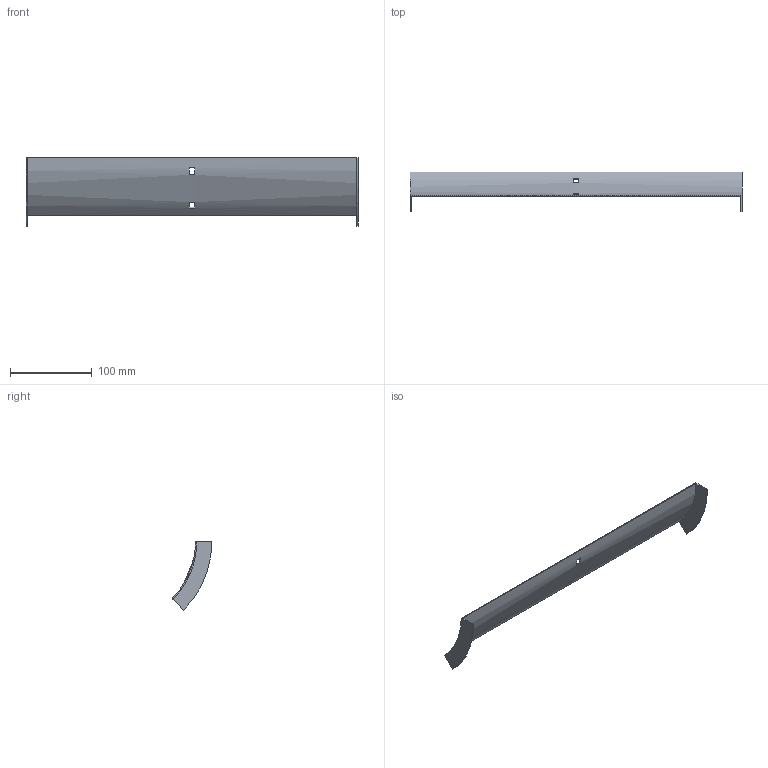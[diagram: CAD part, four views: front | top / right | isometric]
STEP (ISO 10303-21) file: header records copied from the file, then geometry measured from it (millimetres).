
FILE_DESCRIPTION (( 'STEP AP214' ), '1' );
FILE_NAME ('31N1R400.step', '2025-02-21T09:23:14', ( '' ), ( '' ), 'SwSTEP 2.0', 'SolidWorks 2023', '' );
FILE_SCHEMA (( 'AUTOMOTIVE_DESIGN' ));
Length unit declared in the file: millimetre
Products named in the file (1): 31N1R400
Bounding box: 407 x 48.85 x 83.79 mm (x, y, z)
Volume: 52173.1 mm3; surface area: 71267.9 mm2
Topology: 1 solids, 1 shells, 18 faces, 48 edges, 32 vertices
Faces by surface type: plane 14, cylinder 4
Entity records: 599 total; most frequent: DIRECTION 102, CARTESIAN_POINT 99, ORIENTED_EDGE 96, EDGE_CURVE 48, AXIS2_PLACEMENT_3D 35, LINE 32, VECTOR 32, VERTEX_POINT 32
